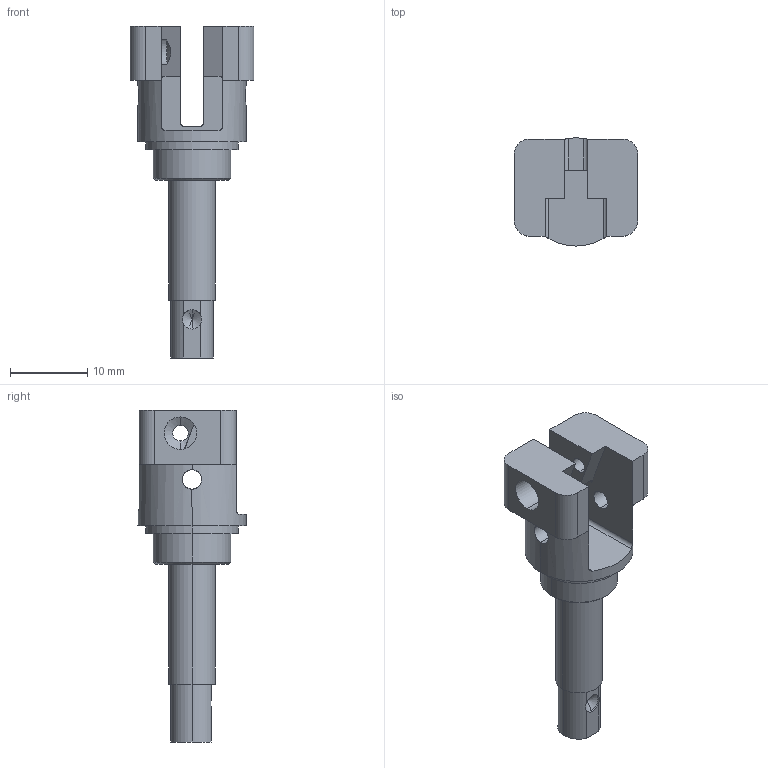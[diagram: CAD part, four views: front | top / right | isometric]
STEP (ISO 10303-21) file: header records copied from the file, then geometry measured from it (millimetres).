
FILE_DESCRIPTION (( 'STEP AP203' ), '1' );
FILE_NAME ('轴1.STEP', '2026-08-07T08:58:39', ( '微软用户' ), ( '微软中国' ), 'SwSTEP 2.0', 'SolidWorks 2024', '' );
FILE_SCHEMA (( 'CONFIG_CONTROL_DESIGN' ));
Length unit declared in the file: millimetre
Products named in the file (1): 轴1
Bounding box: 16 x 14 x 43 mm (x, y, z)
Volume: 2487.9 mm3; surface area: 2110.1 mm2
Topology: 1 solids, 1 shells, 67 faces, 182 edges, 115 vertices
Faces by surface type: cylinder 33, plane 28, cone 6
Entity records: 2298 total; most frequent: CARTESIAN_POINT 492, DIRECTION 369, ORIENTED_EDGE 360, EDGE_CURVE 180, AXIS2_PLACEMENT_3D 134, VERTEX_POINT 115, VECTOR 101, LINE 101
